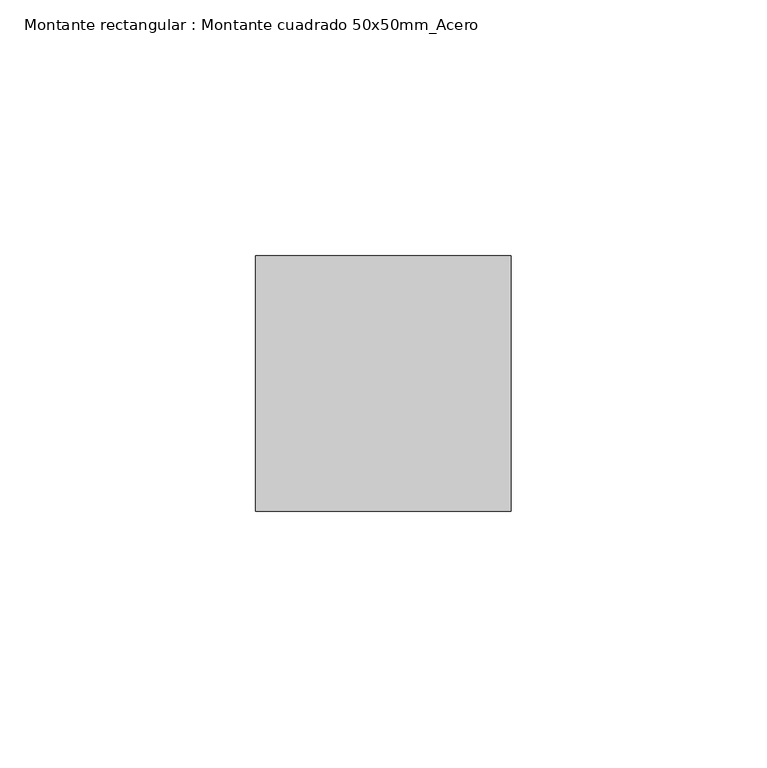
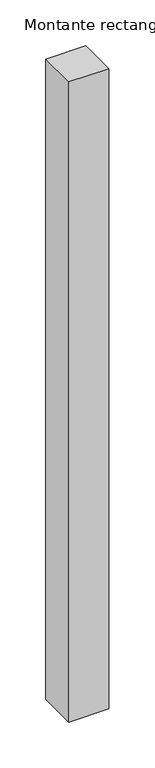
"""IFC4 building model written with IfcOpenShell, lengths in millimetres: member geometry, Montante rectangular : Montante cuadrado 50x50mm_Acero."""

from ifc_helpers import new_model, si_unit, frame, origin, place, context, project, spatial, polyline, outline, extrude, source, transform, mapped, element, save


def montante_rectangular_montante_cuadrado_50x50mm_acero_31f087f2(model_context):
    return source(origin(), model_context, "Body", "SweptSolid", [
        extrude(outline(polyline([(0.0, 0.0), (0.0, -50.0), (-50.0, -50.0), (-50.0, 0.0), (0.0, 0.0)])), frame((0.0, 0.0, -850.0), z_axis=(0.0, 0.0, 1.0), x_axis=(1.0, 0.0, 0.0)), (0.0, 0.0, 1.0), 850.0),
    ])


if __name__ == "__main__":
    model = new_model("IFC4")
    model_context = context("Model", 3, world=origin())
    ifc_project = project(units=[si_unit("LENGTHUNIT", "METRE", prefix="MILLI")], contexts=[model_context])
    site = spatial("IfcSite", under=ifc_project)
    building = spatial("IfcBuilding", under=site)
    placement = place(None, origin())
    montante_rectangular_montante_cuadrado_50x50mm_acero_shape = montante_rectangular_montante_cuadrado_50x50mm_acero_31f087f2(model_context)
    element("IfcMember", 1, ObjectType="Montante rectangular : Montante cuadrado 50x50mm_Acero", at=placement, inside=building, context=model_context, shape_type="MappedRepresentation", body=[
        mapped(montante_rectangular_montante_cuadrado_50x50mm_acero_shape, transform((0.0, 0.0, 0.0), x_axis=(1.0, 0.0, 0.0), y_axis=(0.0, 1.0, 0.0), z_axis=(0.0, 0.0, 1.0))),
    ])
    save(model, "model.ifc")
